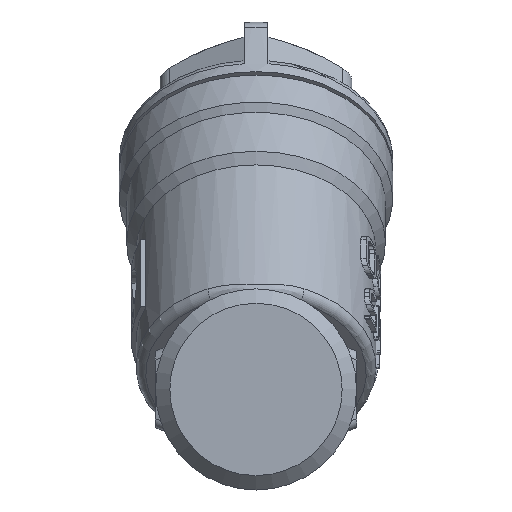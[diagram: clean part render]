
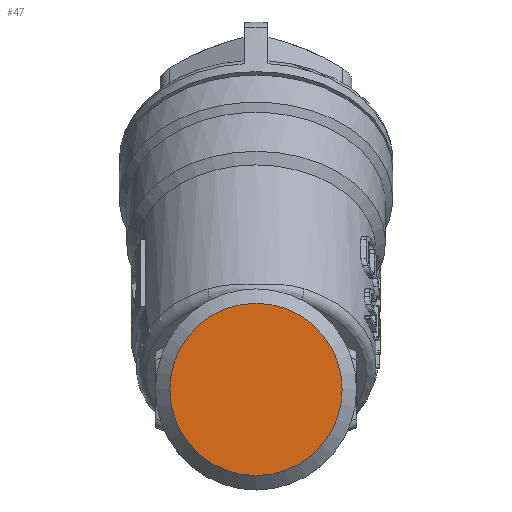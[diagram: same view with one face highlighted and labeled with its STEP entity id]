
A CAD part, front view. The second image highlights one B-rep face of the part: STEP entity #47.
In plain terms, the highlighted planar face has unit normal (0, -1, 0).
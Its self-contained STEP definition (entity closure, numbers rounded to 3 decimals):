
#47=ADVANCED_FACE('',(#350),#352,.F.);
#350=FACE_BOUND('',#351,.T.);
#351=EDGE_LOOP('',(#2422));
#352=PLANE('',#353);
#353=AXIS2_PLACEMENT_3D('',#354,#355,#356);
#354=CARTESIAN_POINT('',(0.,-32.25,0.));
#355=DIRECTION('',(0.,1.,0.));
#356=DIRECTION('',(-1.,0.,0.));
#2422=ORIENTED_EDGE('',*,*,#4427,.T.);
#4427=EDGE_CURVE('',#5243,#5243,#5244,.F.);
#5243=VERTEX_POINT('',#6594);
#5244=CIRCLE('',#6595,8.98);
#6594=CARTESIAN_POINT('',(-8.98,-32.25,0.));
#6595=AXIS2_PLACEMENT_3D('',#6596,#6597,#6598);
#6596=CARTESIAN_POINT('',(0.,-32.25,0.));
#6597=DIRECTION('',(0.,1.,0.));
#6598=DIRECTION('',(-1.,0.,0.));
